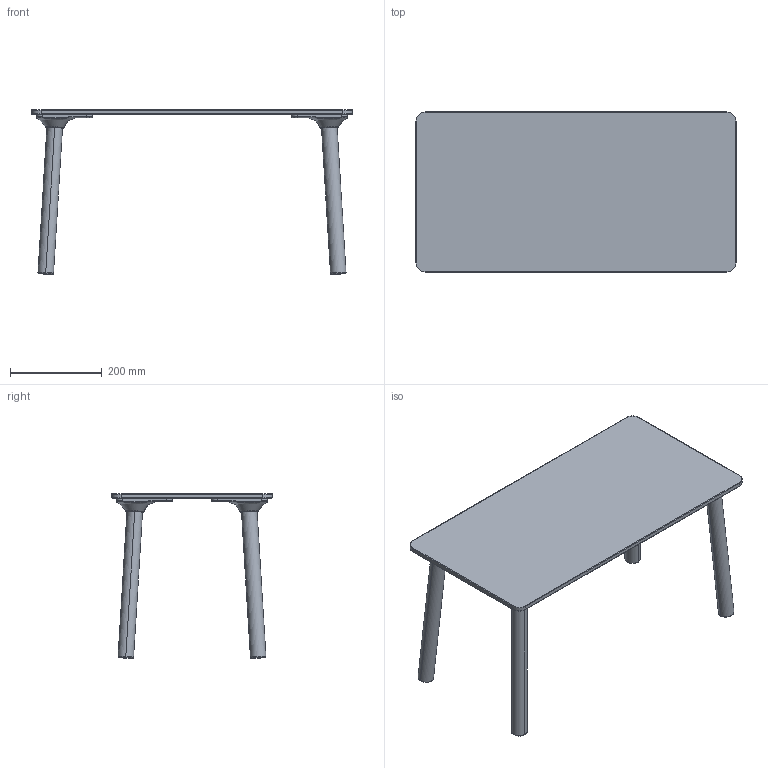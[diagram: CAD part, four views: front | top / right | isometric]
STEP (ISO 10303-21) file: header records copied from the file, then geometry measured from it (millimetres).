
FILE_DESCRIPTION (( 'STEP AP203' ), '1' );
FILE_NAME ('STEFANINO_H35_70X35.STEP', '2014-12-22T08:38:48', ( '' ), ( '' ), 'SwSTEP 2.0', 'SolidWorks 2014', '' );
FILE_SCHEMA (( 'CONFIG_CONTROL_DESIGN' ));
Length unit declared in the file: millimetre
Products named in the file (3): STEFANINO_H35_70X35; STEFANINO_PIANO_70X35; STEFANNINO_MOZZO_GAMBA
Assembly tree (5 placements, depth 2):
  STEFANINO_H35_70X35
    STEFANINO_PIANO_70X35
    STEFANNINO_MOZZO_GAMBA  x4
Bounding box: 700 x 350 x 360.08 mm (x, y, z)
Volume: 4117664.5 mm3; surface area: 762776.2 mm2
Topology: 9 solids, 9 shells, 206 faces, 460 edges, 272 vertices
Faces by surface type: bspline 64, cylinder 56, plane 46, torus 36, cone 4
Entity records: 3529 total; most frequent: CARTESIAN_POINT 1639, DIRECTION 331, ORIENTED_EDGE 314, EDGE_CURVE 157, AXIS2_PLACEMENT_3D 143, VERTEX_POINT 92, CIRCLE 80, EDGE_LOOP 73
